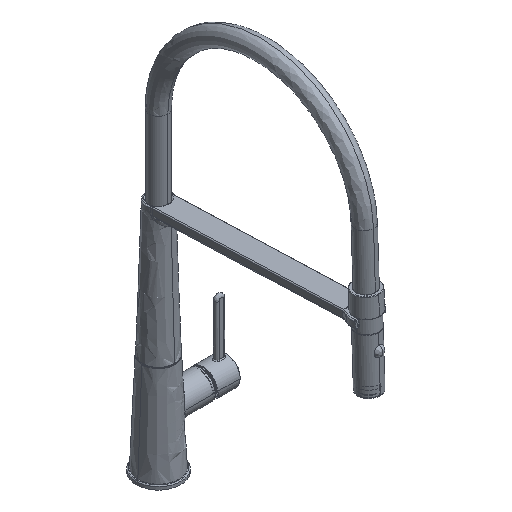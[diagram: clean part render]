
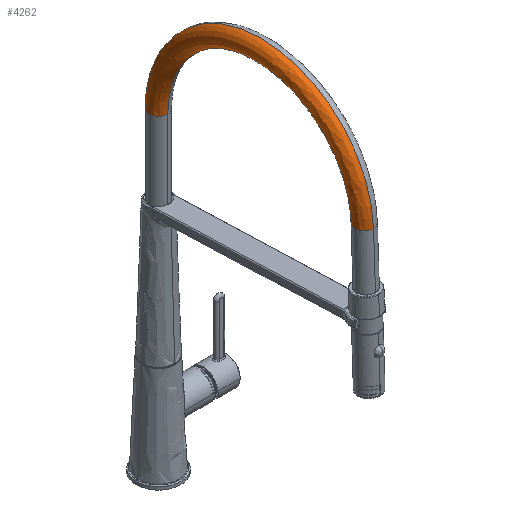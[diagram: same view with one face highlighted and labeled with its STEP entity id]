
A CAD part, isometric view. The second image highlights one B-rep face of the part: STEP entity #4262.
In plain terms, the highlighted free-form (B-spline) face has degree [2, 2] with [9, 9] control points.
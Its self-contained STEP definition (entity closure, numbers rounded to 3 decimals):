
#1099=(
BOUNDED_SURFACE()
B_SPLINE_SURFACE(2,2,((#82743,#82744,#82745,#82746,#82747,#82748,#82749,
#82750,#82751),(#82752,#82753,#82754,#82755,#82756,#82757,#82758,#82759,
#82760),(#82761,#82762,#82763,#82764,#82765,#82766,#82767,#82768,#82769),
(#82770,#82771,#82772,#82773,#82774,#82775,#82776,#82777,#82778),(#82779,
#82780,#82781,#82782,#82783,#82784,#82785,#82786,#82787),(#82788,#82789,
#82790,#82791,#82792,#82793,#82794,#82795,#82796),(#82797,#82798,#82799,
#82800,#82801,#82802,#82803,#82804,#82805),(#82806,#82807,#82808,#82809,
#82810,#82811,#82812,#82813,#82814),(#82815,#82816,#82817,#82818,#82819,
#82820,#82821,#82822,#82823)),.UNSPECIFIED.,.T.,.F.,.F.)
B_SPLINE_SURFACE_WITH_KNOTS((3,2,2,2,3),(3,2,2,2,3),(0.,172.907,
345.815,518.722,691.63),(0.,15.708,
31.416,47.124,62.832),.UNSPECIFIED.)
GEOMETRIC_REPRESENTATION_ITEM()
RATIONAL_B_SPLINE_SURFACE(((1.,0.707,1.,0.707,1.,
0.707,1.,0.707,1.),(0.707,0.5,0.707,
0.5,0.707,0.5,0.707,0.5,0.707),(1.,
0.707,1.,0.707,1.,0.707,1.,0.707,
1.),(0.707,0.5,0.707,0.5,0.707,0.5,
0.707,0.5,0.707),(1.,0.707,1.,0.707,
1.,0.707,1.,0.707,1.),(0.707,0.5,0.707,
0.5,0.707,0.5,0.707,0.5,0.707),(1.,
0.707,1.,0.707,1.,0.707,1.,0.707,
1.),(0.707,0.5,0.707,0.5,0.707,0.5,
0.707,0.5,0.707),(1.,0.707,1.,0.707,
1.,0.707,1.,0.707,1.)))
REPRESENTATION_ITEM('')
SURFACE()
);
#4262=ADVANCED_FACE('',(#8094),#1099,.T.);
#8094=FACE_OUTER_BOUND('',#11966,.T.);
#11966=EDGE_LOOP('',(#17328,#17329,#17330,#17331));
#17328=ORIENTED_EDGE('',*,*,#35604,.F.);
#17329=ORIENTED_EDGE('',*,*,#35606,.T.);
#17330=ORIENTED_EDGE('',*,*,#35605,.T.);
#17331=ORIENTED_EDGE('',*,*,#35607,.F.);
#35604=EDGE_CURVE('',#56583,#56584,#52094,.T.);
#35605=EDGE_CURVE('',#56585,#56586,#52095,.T.);
#35606=EDGE_CURVE('',#56583,#56585,#52096,.T.);
#35607=EDGE_CURVE('',#56584,#56586,#52097,.T.);
#52094=TRIMMED_CURVE($,#54180,(#83104),(#83105),.T.,.CARTESIAN.);
#52095=TRIMMED_CURVE($,#54181,(#83107),(#83108),.T.,.CARTESIAN.);
#52096=TRIMMED_CURVE($,#54182,(#83110),(#83111),.T.,.CARTESIAN.);
#52097=TRIMMED_CURVE($,#54183,(#83113),(#83114),.T.,.CARTESIAN.);
#54180=CIRCLE('',#65273,10.);
#54181=CIRCLE('',#65274,10.);
#54182=CIRCLE('',#65275,100.076);
#54183=CIRCLE('',#65276,120.076);
#56583=VERTEX_POINT('',#83078);
#56584=VERTEX_POINT('',#83079);
#56585=VERTEX_POINT('',#83080);
#56586=VERTEX_POINT('',#83081);
#65273=AXIS2_PLACEMENT_3D($,#83103,#70857,#70858);
#65274=AXIS2_PLACEMENT_3D($,#83106,#70859,#70860);
#65275=AXIS2_PLACEMENT_3D($,#83109,#70861,#70862);
#65276=AXIS2_PLACEMENT_3D($,#83112,#70863,#70864);
#70857=DIRECTION('',(0.,-1.,0.));
#70858=DIRECTION('',(-1.,0.,0.));
#70859=DIRECTION('',(0.035,0.999,0.));
#70860=DIRECTION('',(0.999,-0.035,0.));
#70861=DIRECTION('',(0.,0.,1.));
#70862=DIRECTION('',(1.,0.,0.));
#70863=DIRECTION('',(0.,0.,1.));
#70864=DIRECTION('',(1.,0.,0.));
#82743=CARTESIAN_POINT('',(-230.153,186.5,0.));
#82744=CARTESIAN_POINT('',(-230.153,186.5,10.));
#82745=CARTESIAN_POINT('',(-220.153,186.5,10.));
#82746=CARTESIAN_POINT('',(-210.153,186.5,10.));
#82747=CARTESIAN_POINT('',(-210.153,186.5,0.));
#82748=CARTESIAN_POINT('',(-210.153,186.5,-10.));
#82749=CARTESIAN_POINT('',(-220.153,186.5,-10.));
#82750=CARTESIAN_POINT('',(-230.153,186.5,-10.));
#82751=CARTESIAN_POINT('',(-230.153,186.5,0.));
#82752=CARTESIAN_POINT('',(-230.153,66.424,0.));
#82753=CARTESIAN_POINT('',(-230.153,66.424,10.));
#82754=CARTESIAN_POINT('',(-220.153,76.424,10.));
#82755=CARTESIAN_POINT('',(-210.153,86.424,10.));
#82756=CARTESIAN_POINT('',(-210.153,86.424,0.));
#82757=CARTESIAN_POINT('',(-210.153,86.424,-10.));
#82758=CARTESIAN_POINT('',(-220.153,76.424,-10.));
#82759=CARTESIAN_POINT('',(-230.153,66.424,-10.));
#82760=CARTESIAN_POINT('',(-230.153,66.424,0.));
#82761=CARTESIAN_POINT('',(-110.076,66.424,0.));
#82762=CARTESIAN_POINT('',(-110.076,66.424,10.));
#82763=CARTESIAN_POINT('',(-110.076,76.424,10.));
#82764=CARTESIAN_POINT('',(-110.076,86.424,10.));
#82765=CARTESIAN_POINT('',(-110.076,86.424,0.));
#82766=CARTESIAN_POINT('',(-110.076,86.424,-10.));
#82767=CARTESIAN_POINT('',(-110.076,76.424,-10.));
#82768=CARTESIAN_POINT('',(-110.076,66.424,-10.));
#82769=CARTESIAN_POINT('',(-110.076,66.424,0.));
#82770=CARTESIAN_POINT('',(10.,66.424,0.));
#82771=CARTESIAN_POINT('',(10.,66.424,10.));
#82772=CARTESIAN_POINT('',(0.,76.424,10.));
#82773=CARTESIAN_POINT('',(-10.,86.424,10.));
#82774=CARTESIAN_POINT('',(-10.,86.424,0.));
#82775=CARTESIAN_POINT('',(-10.,86.424,-10.));
#82776=CARTESIAN_POINT('',(0.,76.424,-10.));
#82777=CARTESIAN_POINT('',(10.,66.424,-10.));
#82778=CARTESIAN_POINT('',(10.,66.424,0.));
#82779=CARTESIAN_POINT('',(10.,186.5,0.));
#82780=CARTESIAN_POINT('',(10.,186.5,10.));
#82781=CARTESIAN_POINT('',(0.,186.5,10.));
#82782=CARTESIAN_POINT('',(-10.,186.5,10.));
#82783=CARTESIAN_POINT('',(-10.,186.5,0.));
#82784=CARTESIAN_POINT('',(-10.,186.5,-10.));
#82785=CARTESIAN_POINT('',(0.,186.5,-10.));
#82786=CARTESIAN_POINT('',(10.,186.5,-10.));
#82787=CARTESIAN_POINT('',(10.,186.5,0.));
#82788=CARTESIAN_POINT('',(10.,306.576,0.));
#82789=CARTESIAN_POINT('',(10.,306.576,10.));
#82790=CARTESIAN_POINT('',(0.,296.576,10.));
#82791=CARTESIAN_POINT('',(-10.,286.576,10.));
#82792=CARTESIAN_POINT('',(-10.,286.576,0.));
#82793=CARTESIAN_POINT('',(-10.,286.576,-10.));
#82794=CARTESIAN_POINT('',(0.,296.576,-10.));
#82795=CARTESIAN_POINT('',(10.,306.576,-10.));
#82796=CARTESIAN_POINT('',(10.,306.576,0.));
#82797=CARTESIAN_POINT('',(-110.076,306.576,0.));
#82798=CARTESIAN_POINT('',(-110.076,306.576,10.));
#82799=CARTESIAN_POINT('',(-110.076,296.576,10.));
#82800=CARTESIAN_POINT('',(-110.076,286.576,10.));
#82801=CARTESIAN_POINT('',(-110.076,286.576,0.));
#82802=CARTESIAN_POINT('',(-110.076,286.576,-10.));
#82803=CARTESIAN_POINT('',(-110.076,296.576,-10.));
#82804=CARTESIAN_POINT('',(-110.076,306.576,-10.));
#82805=CARTESIAN_POINT('',(-110.076,306.576,0.));
#82806=CARTESIAN_POINT('',(-230.153,306.576,0.));
#82807=CARTESIAN_POINT('',(-230.153,306.576,10.));
#82808=CARTESIAN_POINT('',(-220.153,296.576,10.));
#82809=CARTESIAN_POINT('',(-210.153,286.576,10.));
#82810=CARTESIAN_POINT('',(-210.153,286.576,0.));
#82811=CARTESIAN_POINT('',(-210.153,286.576,-10.));
#82812=CARTESIAN_POINT('',(-220.153,296.576,-10.));
#82813=CARTESIAN_POINT('',(-230.153,306.576,-10.));
#82814=CARTESIAN_POINT('',(-230.153,306.576,0.));
#82815=CARTESIAN_POINT('',(-230.153,186.5,0.));
#82816=CARTESIAN_POINT('',(-230.153,186.5,10.));
#82817=CARTESIAN_POINT('',(-220.153,186.5,10.));
#82818=CARTESIAN_POINT('',(-210.153,186.5,10.));
#82819=CARTESIAN_POINT('',(-210.153,186.5,0.));
#82820=CARTESIAN_POINT('',(-210.153,186.5,-10.));
#82821=CARTESIAN_POINT('',(-220.153,186.5,-10.));
#82822=CARTESIAN_POINT('',(-230.153,186.5,-10.));
#82823=CARTESIAN_POINT('',(-230.153,186.5,0.));
#83078=CARTESIAN_POINT('',(-10.,186.5,0.));
#83079=CARTESIAN_POINT('',(10.,186.5,0.));
#83080=CARTESIAN_POINT('',(-210.092,189.993,0.));
#83081=CARTESIAN_POINT('',(-230.079,190.691,0.));
#83103=CARTESIAN_POINT('',(0.,186.5,0.));
#83104=CARTESIAN_POINT('',(-10.,186.5,0.));
#83105=CARTESIAN_POINT('',(10.,186.5,0.));
#83106=CARTESIAN_POINT('',(-220.086,190.342,0.));
#83107=CARTESIAN_POINT('',(-210.092,189.993,0.));
#83108=CARTESIAN_POINT('',(-230.079,190.691,0.));
#83109=CARTESIAN_POINT('',(-110.076,186.5,0.));
#83110=CARTESIAN_POINT('',(-10.,186.5,0.));
#83111=CARTESIAN_POINT('',(-210.092,189.993,0.));
#83112=CARTESIAN_POINT('',(-110.076,186.5,0.));
#83113=CARTESIAN_POINT('',(10.,186.5,0.));
#83114=CARTESIAN_POINT('',(-230.079,190.691,0.));
